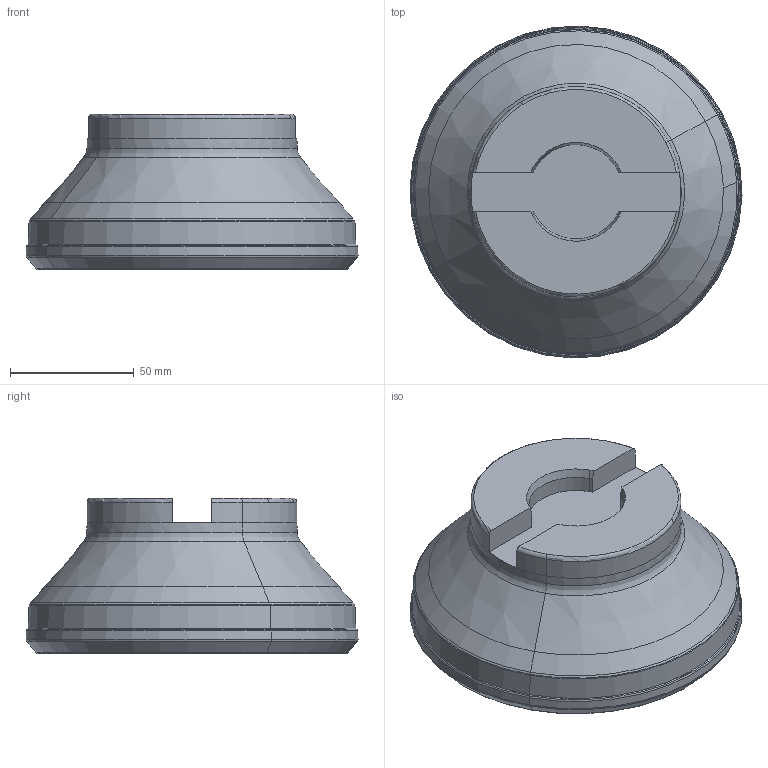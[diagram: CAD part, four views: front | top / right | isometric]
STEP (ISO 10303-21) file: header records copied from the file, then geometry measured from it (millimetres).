
FILE_DESCRIPTION(('CATIA V5 STEP','CAx-IF Rec.Pracs.--- Model Styling and Organization---1.2---2011-12-15'),'2;1');
FILE_NAME('\\nas01\drv1\utils\eitdev\rte\eit\transmagicconvert\db\out\635660041576427447\3106860L.stp','2015-04-30T12:22:49+00:00',('none'),('none'),'CATIA Version 5 Release 21 SP 5 (IN-10)','CATIA V5 STEP AP214','none');
FILE_SCHEMA(('AUTOMOTIVE_DESIGN { 1 0 10303 214 1 1 1 1 }'));
Length unit declared in the file: millimetre
Products named in the file (1): IQ845 FSYD125-12-38.1-R07
Bounding box: 134.17 x 134.17 x 63 mm (x, y, z)
Volume: 544110.6 mm3; surface area: 64577.8 mm2
Topology: 2 solids, 2 shells, 131 faces, 279 edges, 152 vertices
Faces by surface type: revolution 97, cylinder 12, plane 10, cone 8, torus 4
Entity records: 5152 total; most frequent: CARTESIAN_POINT 2654, ORIENTED_EDGE 558, DIRECTION 301, EDGE_CURVE 279, B_SPLINE_CURVE_WITH_KNOTS 210, AXIS2_PLACEMENT_3D 156, VERTEX_POINT 152, CIRCLE 136
